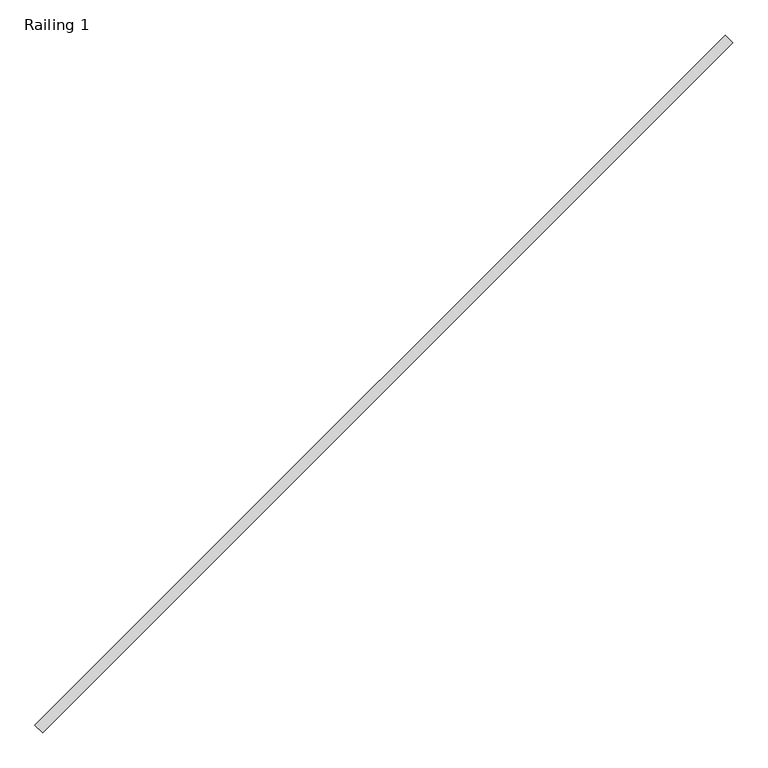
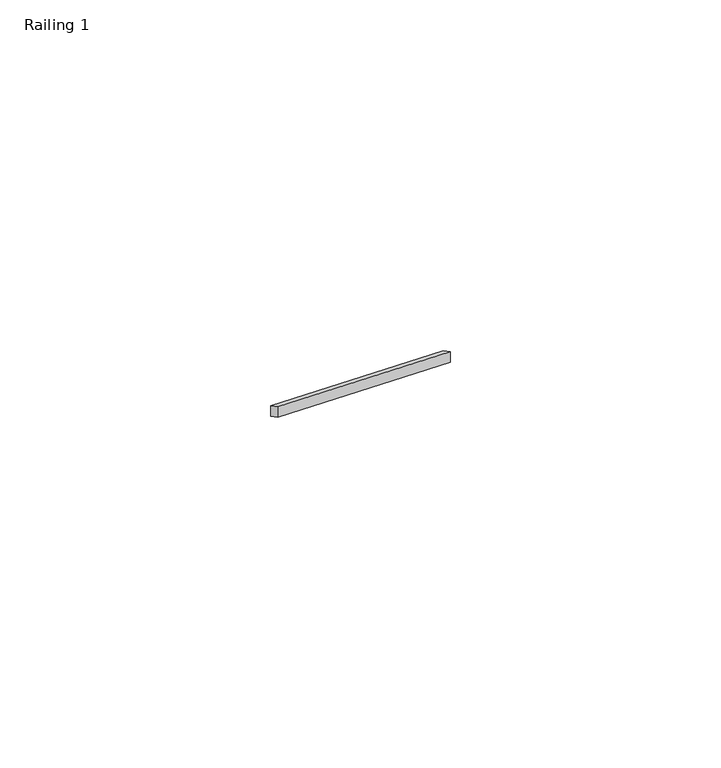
"""IFC4 building model written with IfcOpenShell, lengths in millimetres: railing geometry, Railing 1."""

from ifc_helpers import new_model, si_unit, frame, origin, place, context, project, spatial, polyline, outline, extrude, source, transform, mapped, element, save


def railing_1_b2eb6bb3(model_context):
    return source(origin(), model_context, "Body", "SweptSolid", [
        extrude(outline(polyline([(-43.8546875, -76.2), (0.0, 0.0), (5275.1137444, 0.0), (5231.2590569, -76.2), (-43.8546875, -76.2)])), frame((-15384.1081993, -27079.1735191, -4917.28125), z_axis=(-0.7071067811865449, 0.7071067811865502, 0.0), x_axis=(-0.6128573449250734, -0.6128573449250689, 0.49881033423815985)), (0.0, 0.0, 1.0), 50.8),
    ])


if __name__ == "__main__":
    model = new_model("IFC4")
    model_context = context("Model", 3, world=origin())
    ifc_project = project(units=[si_unit("LENGTHUNIT", "METRE", prefix="MILLI")], contexts=[model_context])
    site = spatial("IfcSite", under=ifc_project)
    building = spatial("IfcBuilding", under=site)
    placement = place(None, origin())
    railing_1_shape = railing_1_b2eb6bb3(model_context)
    element("IfcRailing", 1, ObjectType="Railing 1", at=placement, inside=building, context=model_context, shape_type="MappedRepresentation", body=[
        mapped(railing_1_shape, transform((0.0, 0.0, 0.0), x_axis=(1.0, 0.0, 0.0), y_axis=(0.0, 1.0, 0.0), z_axis=(0.0, 0.0, 1.0))),
    ])
    save(model, "model.ifc")
